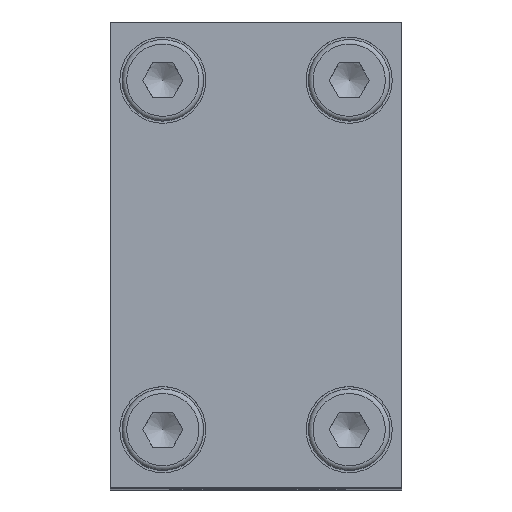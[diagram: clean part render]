
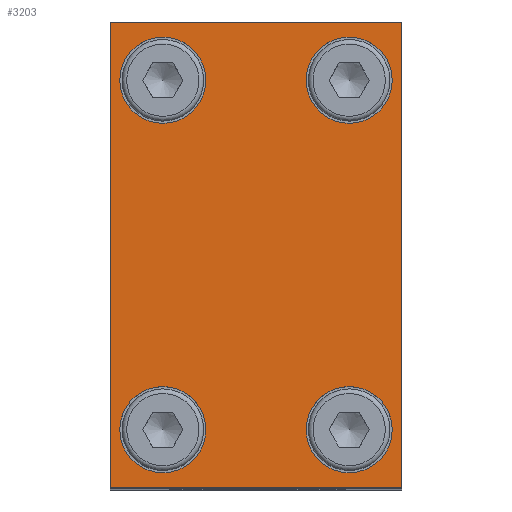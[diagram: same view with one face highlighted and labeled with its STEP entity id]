
A CAD part, top view. The second image highlights one B-rep face of the part: STEP entity #3203.
In plain terms, the highlighted planar face has unit normal (0, 0, 1).
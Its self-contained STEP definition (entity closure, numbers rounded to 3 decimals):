
#316 = CARTESIAN_POINT ( 'NONE',  ( -8., 15., 89. ) ) ;
#317 = DIRECTION ( 'NONE',  ( 0., 0., -1. ) ) ;
#318 = DIRECTION ( 'NONE',  ( 0., 1., 0. ) ) ;
#319 = CARTESIAN_POINT ( 'NONE',  ( 8., 15., 89. ) ) ;
#324 = DIRECTION ( 'NONE',  ( 0., 0., -1. ) ) ;
#325 = DIRECTION ( 'NONE',  ( 0., 1., 0. ) ) ;
#328 = CARTESIAN_POINT ( 'NONE',  ( 8., -15., 89. ) ) ;
#329 = DIRECTION ( 'NONE',  ( 0., 0., -1. ) ) ;
#330 = DIRECTION ( 'NONE',  ( 0., 1., 0. ) ) ;
#333 = CARTESIAN_POINT ( 'NONE',  ( -8., -15., 89. ) ) ;
#334 = DIRECTION ( 'NONE',  ( 0., 0., -1. ) ) ;
#335 = DIRECTION ( 'NONE',  ( 0., 1., 0. ) ) ;
#336 = CARTESIAN_POINT ( 'NONE',  ( -12.5, -20., 89. ) ) ;
#337 = DIRECTION ( 'NONE',  ( -1., 0., 0. ) ) ;
#351 = CARTESIAN_POINT ( 'NONE',  ( -12.5, 20., 89. ) ) ;
#352 = DIRECTION ( 'NONE',  ( 0., 1., 0. ) ) ;
#355 = CARTESIAN_POINT ( 'NONE',  ( 12.5, 20., 89. ) ) ;
#356 = DIRECTION ( 'NONE',  ( 1., 0., 0. ) ) ;
#359 = CARTESIAN_POINT ( 'NONE',  ( 12.5, -20., 89. ) ) ;
#360 = DIRECTION ( 'NONE',  ( 0., -1., 0. ) ) ;
#681 = VERTEX_POINT ( 'NONE', #682 ) ;
#682 = CARTESIAN_POINT ( 'NONE',  ( -8., 18.7, 89. ) ) ;
#685 = VERTEX_POINT ( 'NONE', #686 ) ;
#686 = CARTESIAN_POINT ( 'NONE',  ( 8., 18.7, 89. ) ) ;
#687 = VERTEX_POINT ( 'NONE', #688 ) ;
#688 = CARTESIAN_POINT ( 'NONE',  ( 8., -11.3, 89. ) ) ;
#689 = VERTEX_POINT ( 'NONE', #690 ) ;
#690 = CARTESIAN_POINT ( 'NONE',  ( -8., -11.3, 89. ) ) ;
#904 = CIRCLE ( 'NONE', #6109, 3.7 ) ;
#907 = CIRCLE ( 'NONE', #6113, 3.7 ) ;
#911 = CIRCLE ( 'NONE', #6112, 3.7 ) ;
#912 = LINE ( 'NONE', #336, #914 ) ;
#914 = VECTOR ( 'NONE', #337, 1000. ) ;
#915 = CIRCLE ( 'NONE', #6111, 3.7 ) ;
#917 = LINE ( 'NONE', #351, #926 ) ;
#925 = LINE ( 'NONE', #359, #931 ) ;
#926 = VECTOR ( 'NONE', #352, 1000. ) ;
#929 = LINE ( 'NONE', #355, #930 ) ;
#930 = VECTOR ( 'NONE', #356, 1000. ) ;
#931 = VECTOR ( 'NONE', #360, 1000. ) ;
#1743 = VERTEX_POINT ( 'NONE', #1988 ) ;
#1744 = VERTEX_POINT ( 'NONE', #1989 ) ;
#1745 = VERTEX_POINT ( 'NONE', #1990 ) ;
#1746 = VERTEX_POINT ( 'NONE', #1991 ) ;
#1988 = CARTESIAN_POINT ( 'NONE',  ( 12.5, 20., 89. ) ) ;
#1989 = CARTESIAN_POINT ( 'NONE',  ( -12.5, 20., 89. ) ) ;
#1990 = CARTESIAN_POINT ( 'NONE',  ( -12.5, -20., 89. ) ) ;
#1991 = CARTESIAN_POINT ( 'NONE',  ( 12.5, -20., 89. ) ) ;
#2404 = EDGE_LOOP ( 'NONE', ( #4888 ) ) ;
#2632 = EDGE_LOOP ( 'NONE', ( #4885 ) ) ;
#2633 = EDGE_LOOP ( 'NONE', ( #4887 ) ) ;
#2634 = EDGE_LOOP ( 'NONE', ( #4886 ) ) ;
#2636 = EDGE_LOOP ( 'NONE', ( #4889, #4890, #4891, #4892 ) ) ;
#3203 = ADVANCED_FACE ( 'NONE', ( #6627, #6629, #6634, #6636, #6624 ), #7941, .T. ) ;
#3918 = EDGE_CURVE ( 'NONE', #681, #681, #904, .T. ) ;
#3921 = EDGE_CURVE ( 'NONE', #685, #685, #907, .T. ) ;
#3923 = EDGE_CURVE ( 'NONE', #687, #687, #911, .T. ) ;
#3925 = EDGE_CURVE ( 'NONE', #689, #689, #915, .T. ) ;
#3926 = EDGE_CURVE ( 'NONE', #1746, #1745, #912, .T. ) ;
#3932 = EDGE_CURVE ( 'NONE', #1745, #1744, #917, .T. ) ;
#3934 = EDGE_CURVE ( 'NONE', #1744, #1743, #929, .T. ) ;
#3936 = EDGE_CURVE ( 'NONE', #1743, #1746, #925, .T. ) ;
#4885 = ORIENTED_EDGE ( 'NONE', *, *, #3918, .T. ) ;
#4886 = ORIENTED_EDGE ( 'NONE', *, *, #3921, .T. ) ;
#4887 = ORIENTED_EDGE ( 'NONE', *, *, #3923, .T. ) ;
#4888 = ORIENTED_EDGE ( 'NONE', *, *, #3925, .T. ) ;
#4889 = ORIENTED_EDGE ( 'NONE', *, *, #3926, .F. ) ;
#4890 = ORIENTED_EDGE ( 'NONE', *, *, #3936, .F. ) ;
#4891 = ORIENTED_EDGE ( 'NONE', *, *, #3934, .F. ) ;
#4892 = ORIENTED_EDGE ( 'NONE', *, *, #3932, .F. ) ;
#5896 = AXIS2_PLACEMENT_3D ( 'NONE', #7942, #7946, #7947 ) ;
#6109 = AXIS2_PLACEMENT_3D ( 'NONE', #316, #317, #318 ) ;
#6111 = AXIS2_PLACEMENT_3D ( 'NONE', #333, #334, #335 ) ;
#6112 = AXIS2_PLACEMENT_3D ( 'NONE', #328, #329, #330 ) ;
#6113 = AXIS2_PLACEMENT_3D ( 'NONE', #319, #324, #325 ) ;
#6624 = FACE_OUTER_BOUND ( 'NONE', #2636, .T. ) ;
#6627 = FACE_BOUND ( 'NONE', #2632, .T. ) ;
#6629 = FACE_BOUND ( 'NONE', #2634, .T. ) ;
#6634 = FACE_BOUND ( 'NONE', #2633, .T. ) ;
#6636 = FACE_BOUND ( 'NONE', #2404, .T. ) ;
#7941 = PLANE ( 'NONE',  #5896 ) ;
#7942 = CARTESIAN_POINT ( 'NONE',  ( 0., 0., 89. ) ) ;
#7946 = DIRECTION ( 'NONE',  ( 0., 0., 1. ) ) ;
#7947 = DIRECTION ( 'NONE',  ( 0.707, 0.707, 0. ) ) ;
